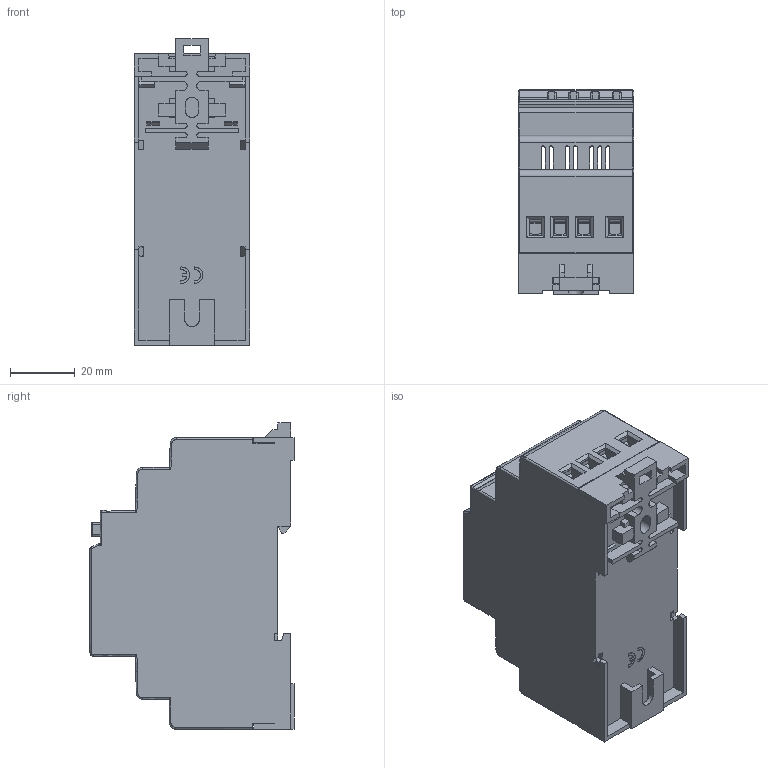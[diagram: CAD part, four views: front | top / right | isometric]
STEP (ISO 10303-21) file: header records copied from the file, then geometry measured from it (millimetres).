
FILE_DESCRIPTION(('STEP AP214'),'2;1');
FILE_NAME('122X.stp','2016-12-13T11:21:29',(''),(''),'2007.1.106','THINKDESIGN','');
FILE_SCHEMA(('AUTOMOTIVE_DESIGN'));
Length unit declared in the file: millimetre
Products named in the file (1): top
Bounding box: 35.8 x 63 x 94.55 mm (x, y, z)
Surface area: 34900 mm2 (no closed solid volume)
Topology: 0 solids, 0 shells, 1569 faces, 8397 edges, 8415 vertices
Faces by surface type: bspline 1569
Entity records: 73143 total; most frequent: CARTESIAN_POINT 52272, COMPOSITE_CURVE_SEGMENT 8371, QUASI_UNIFORM_CURVE 5288, STYLED_ITEM 1591, OUTER_BOUNDARY_CURVE 1569, CURVE_BOUNDED_SURFACE 1569, B_SPLINE_CURVE_WITH_KNOTS 1351, B_SPLINE_SURFACE_WITH_KNOTS 1003
